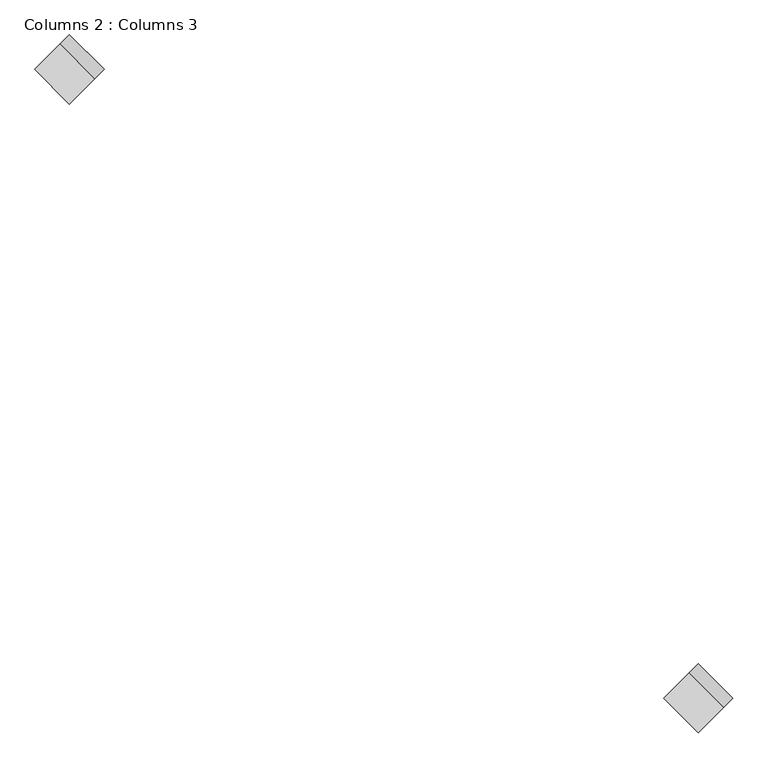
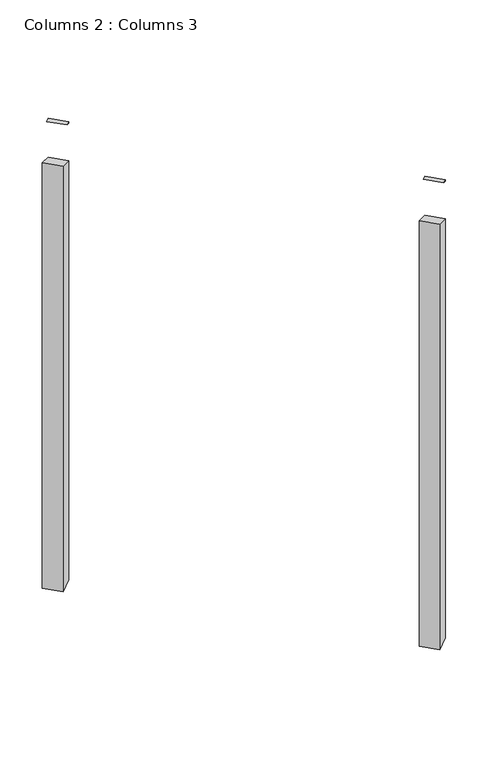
"""IFC4 building model written with IfcOpenShell, lengths in millimetres: column geometry, Columns 2 : Columns 3."""

from ifc_helpers import new_model, si_unit, frame, origin, place, context, project, spatial, polyline, outline, extrude, source, transform, mapped, element, save


def columns_2_columns_3_d0358bd5(model_context):
    return source(origin(), model_context, "Body", "SweptSolid", [
        extrude(outline(polyline([(0.0, -100.0), (0.0, -73.8024368), (9.5351333, -100.0), (0.0, -100.0)])), frame((-254869.500385, -44094.5770975, 60607.7557869), z_axis=(-0.7071067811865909, 0.7071067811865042, 0.0), x_axis=(0.0, 0.0, -1.0)), (0.0, 0.0, 1.0), 100.0),
        extrude(outline(polyline([(2607.7557869, 0.0), (2607.7557869, -100.0), (222.3706878, -100.0), (185.9736644, 0.0), (2607.7557869, 0.0)])), frame((-254869.500385, -44094.5770975, 60607.7557869), z_axis=(-0.7071067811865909, 0.7071067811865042, 0.0), x_axis=(0.0, 0.0, -1.0)), (0.0, 0.0, 1.0), 100.0),
        extrude(outline(polyline([(0.0, -100.0), (0.0, -73.8024367), (9.5351333, -100.0), (0.0, -100.0)])), frame((-253582.5660432, -45381.5114392, 60607.7557869), z_axis=(-0.7071067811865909, 0.7071067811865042, 0.0), x_axis=(0.0, 0.0, -1.0)), (0.0, 0.0, 1.0), 100.0),
        extrude(outline(polyline([(2607.7557869, 0.0), (2607.7557869, -100.0), (222.3706878, -100.0), (185.9736644, 0.0), (2607.7557869, 0.0)])), frame((-253582.5660432, -45381.5114392, 60607.7557869), z_axis=(-0.7071067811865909, 0.7071067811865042, 0.0), x_axis=(0.0, 0.0, -1.0)), (0.0, 0.0, 1.0), 100.0),
    ])


if __name__ == "__main__":
    model = new_model("IFC4")
    model_context = context("Model", 3, world=origin())
    ifc_project = project(units=[si_unit("LENGTHUNIT", "METRE", prefix="MILLI")], contexts=[model_context])
    site = spatial("IfcSite", under=ifc_project)
    building = spatial("IfcBuilding", under=site)
    placement = place(None, origin())
    columns_2_columns_3_shape = columns_2_columns_3_d0358bd5(model_context)
    element("IfcColumn", 1, ObjectType="Columns 2 : Columns 3", at=placement, inside=building, context=model_context, shape_type="MappedRepresentation", body=[
        mapped(columns_2_columns_3_shape, transform((0.0, 0.0, 0.0), x_axis=(1.0, 0.0, 0.0), y_axis=(0.0, 1.0, 0.0), z_axis=(0.0, 0.0, 1.0))),
    ])
    save(model, "model.ifc")
